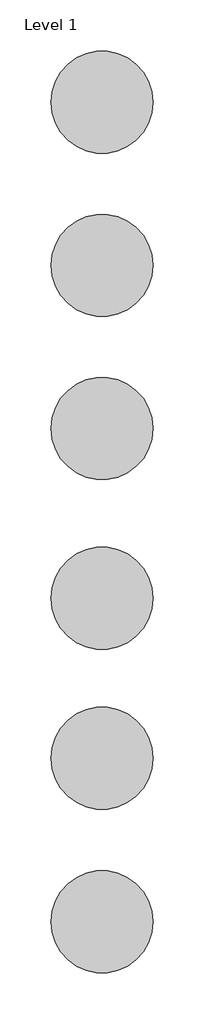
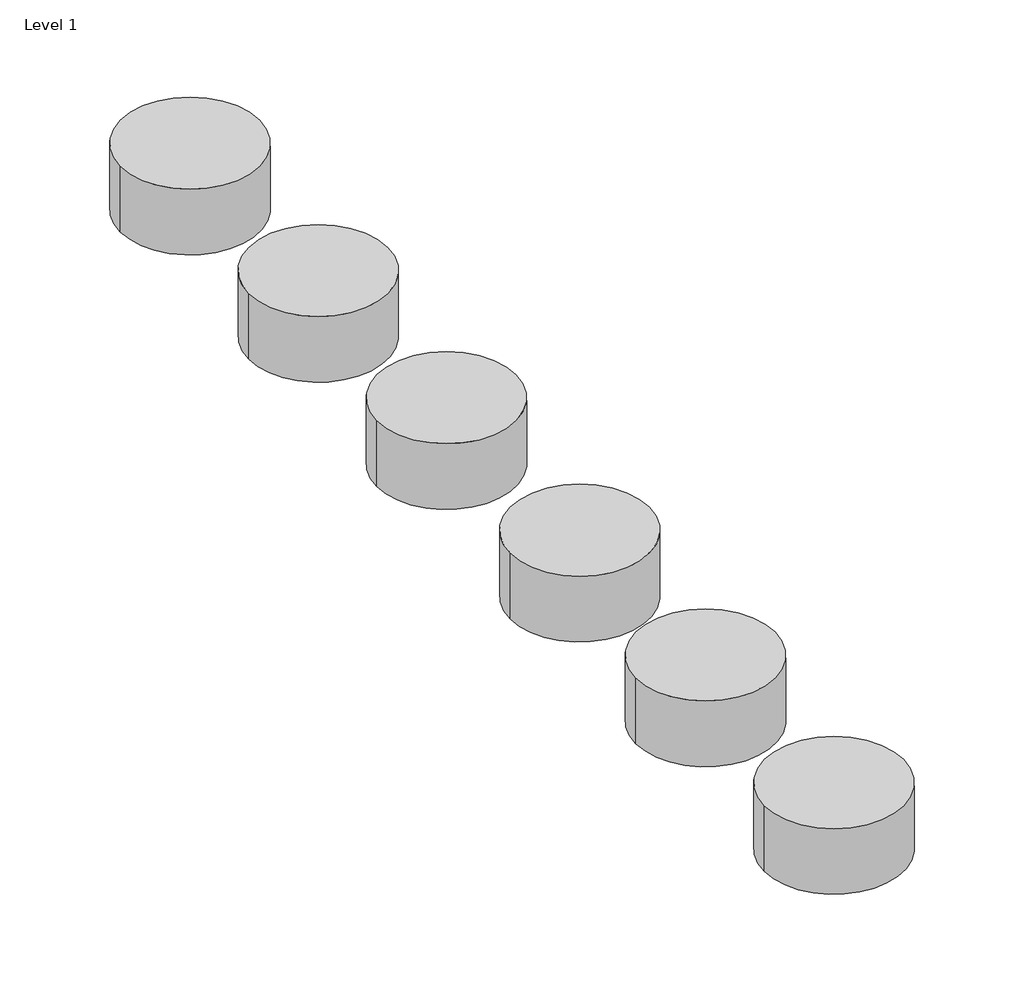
# One storey, incomplete: 6 proxies.
"""IFC4 building model written with IfcOpenShell, lengths in millimetres."""

from ifc_helpers import new_model, si_unit, origin, place, context, project, spatial, transform, mapped, element, save
from components import materialmodel_materialmodel_02e69005

model = new_model("IFC4")

# Units and contexts
model_context = context("Model", 3, world=origin())
ifc_project = project(units=[si_unit("LENGTHUNIT", "METRE", prefix="MILLI")], contexts=[model_context])

# Site, building, storey
site = spatial("IfcSite", under=ifc_project)
building = spatial("IfcBuilding", under=site)
storey = spatial("IfcBuildingStorey", under=building, Name="Level 1", Elevation=0.0)

# Proxies
placement = place(None, origin())
materialmodel_materialmodel_shape = materialmodel_materialmodel_02e69005(model_context)
element("IfcBuildingElementProxy", 1, Name="MaterialModel : MaterialModel", ObjectType="MaterialModel : MaterialModel", at=placement, inside=storey, context=model_context, shape_type="MappedRepresentation", body=[
    mapped(materialmodel_materialmodel_shape, transform((-4104.688025, 6080.7064385, 0.0), x_axis=(1.0, 0.0, 0.0), y_axis=(0.0, 1.0, 0.0), z_axis=(0.0, 0.0, 1.0))),
])
element("IfcBuildingElementProxy", 2, Name="MaterialModel : MaterialModel", ObjectType="MaterialModel : MaterialModel", at=placement, inside=storey, context=model_context, shape_type="MappedRepresentation", body=[
    mapped(materialmodel_materialmodel_shape, transform((-4104.688025, 5924.1864775, 0.0), x_axis=(1.0, 0.0, 0.0), y_axis=(0.0, 1.0, 0.0), z_axis=(0.0, 0.0, 1.0))),
])
element("IfcBuildingElementProxy", 3, Name="MaterialModel : MaterialModel", ObjectType="MaterialModel : MaterialModel", at=placement, inside=storey, context=model_context, shape_type="MappedRepresentation", body=[
    mapped(materialmodel_materialmodel_shape, transform((-4104.688025, 5764.1864775, 0.0), x_axis=(1.0, 0.0, 0.0), y_axis=(0.0, 1.0, 0.0), z_axis=(0.0, 0.0, 1.0))),
])
element("IfcBuildingElementProxy", 4, Name="MaterialModel : MaterialModel", ObjectType="MaterialModel : MaterialModel", at=placement, inside=storey, context=model_context, shape_type="MappedRepresentation", body=[
    mapped(materialmodel_materialmodel_shape, transform((-4104.688025, 6566.0034872, 0.0), x_axis=(1.0, 0.0, 0.0), y_axis=(0.0, 1.0, 0.0), z_axis=(0.0, 0.0, 1.0))),
])
element("IfcBuildingElementProxy", 5, Name="MaterialModel : MaterialModel", ObjectType="MaterialModel : MaterialModel", at=placement, inside=storey, context=model_context, shape_type="MappedRepresentation", body=[
    mapped(materialmodel_materialmodel_shape, transform((-4104.688025, 6406.3953219, 0.0), x_axis=(1.0, 0.0, 0.0), y_axis=(0.0, 1.0, 0.0), z_axis=(0.0, 0.0, 1.0))),
])
element("IfcBuildingElementProxy", 6, Name="MaterialModel : MaterialModel", ObjectType="MaterialModel : MaterialModel", at=placement, inside=storey, context=model_context, shape_type="MappedRepresentation", body=[
    mapped(materialmodel_materialmodel_shape, transform((-4104.688025, 6246.7871567, 0.0), x_axis=(1.0, 0.0, 0.0), y_axis=(0.0, 1.0, 0.0), z_axis=(0.0, 0.0, 1.0))),
])

save(model, "model.ifc")
